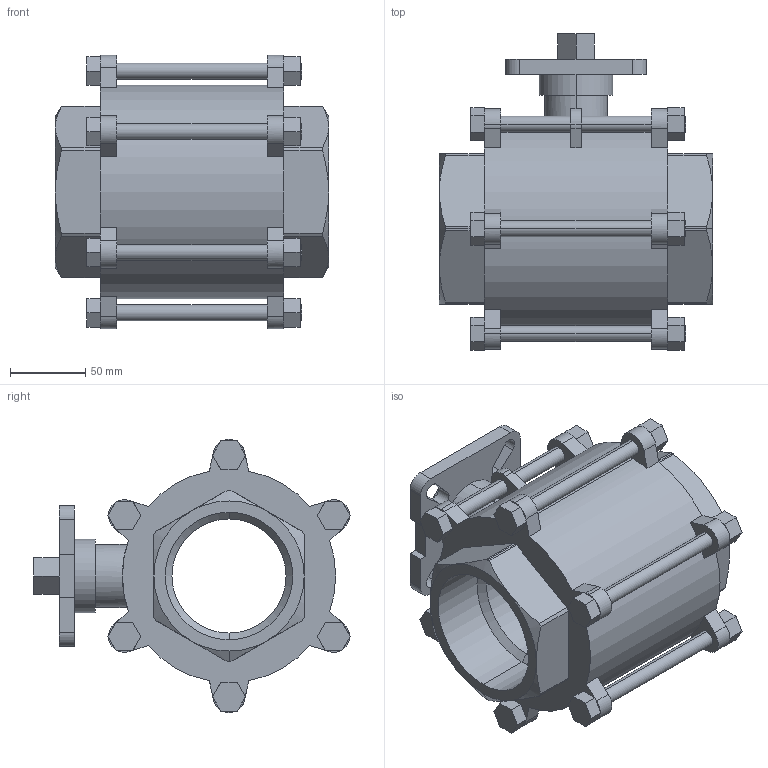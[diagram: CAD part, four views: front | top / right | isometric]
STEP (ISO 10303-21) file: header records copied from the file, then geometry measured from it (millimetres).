
FILE_DESCRIPTION (( 'STEP AP203' ), '1' );
FILE_NAME ('C3.622I0800FVPB0.STEP', '2018-10-12T14:38:40', ( '' ), ( '' ), 'SwSTEP 2.0', 'SolidWorks 2014', '' );
FILE_SCHEMA (( 'CONFIG_CONTROL_DESIGN' ));
Length unit declared in the file: millimetre
Products named in the file (1): C3.622I0800FVPB0
Bounding box: 182 x 210.68 x 182 mm (x, y, z)
Volume: 1817305 mm3; surface area: 207346.3 mm2
Topology: 1 solids, 1 shells, 371 faces, 948 edges, 593 vertices
Faces by surface type: plane 262, cylinder 91, cone 18
Entity records: 11470 total; most frequent: CARTESIAN_POINT 2209, DIRECTION 1937, ORIENTED_EDGE 1896, EDGE_CURVE 948, LINE 651, VECTOR 651, AXIS2_PLACEMENT_3D 643, VERTEX_POINT 593
